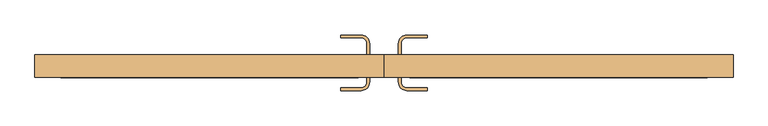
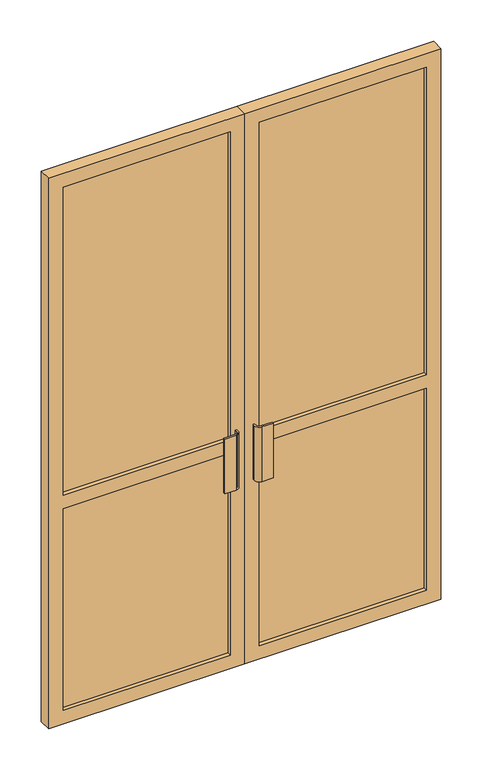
"""IFC4 building model written with IfcOpenShell, lengths in millimetres: door geometry, Дверь-Витраж-Двойная-Витрина : Дверь-Витраж-Двойная-Витрина."""

from ifc_helpers import new_model, si_unit, point, frame, frame_2d, origin, place, context, project, spatial, polyline, circle_curve, trimmed, segment, composite_curve, outline, extrude, source, transform, mapped, element, save


def door_6d2ea87a(model_context):
    return source(origin(), model_context, "Body", "SweptSolid", [
        extrude(outline(polyline([(2300.0, 775.0231001), (2300.0, 0.0231001), (0.0, 0.0231001), (0.0, 775.0231001), (2300.0, 775.0231001)]), holes=[polyline([(2243.0, 718.0231001), (957.0, 718.0231001), (957.0, 57.0231001), (2243.0, 57.0231001), (2243.0, 718.0231001)]), polyline([(57.0, 57.0231001), (900.0, 57.0231001), (900.0, 718.0231001), (57.0, 718.0231001), (57.0, 57.0231001)])]), frame((0.0, 0.0, 0.0), z_axis=(0.0, 1.0, 0.0), x_axis=(0.0, 0.0, 1.0)), (0.0, 0.0, 1.0), 50.0),
        extrude(outline(polyline([(2300.0, 0.0231001), (2300.0, -774.9768999), (0.0, -774.9768999), (0.0, 0.0231001), (2300.0, 0.0231001)]), holes=[polyline([(2243.0, -56.9768999), (957.0, -56.9768999), (957.0, -717.9768999), (2243.0, -717.9768999), (2243.0, -56.9768999)]), polyline([(57.0, -717.9768999), (900.0, -717.9768999), (900.0, -56.9768999), (57.0, -56.9768999), (57.0, -717.9768999)])]), frame((0.0, 0.0, 0.0), z_axis=(0.0, 1.0, 0.0), x_axis=(0.0, 0.0, 1.0)), (0.0, 0.0, 1.0), 50.0),
        extrude(outline(polyline([(718.0231001, 15.5), (57.0231001, 15.5), (57.0231001, 34.5), (718.0231001, 34.5), (718.0231001, 15.5)])), frame((0.0, 0.0, 57.0), z_axis=(0.0, 0.0, 1.0), x_axis=(1.0, 0.0, 0.0)), (0.0, 0.0, 1.0), 2186.0),
        extrude(outline(polyline([(-56.9768999, 15.5), (-717.9768999, 15.5), (-717.9768999, 34.5), (-56.9768999, 34.5), (-56.9768999, 15.5)])), frame((0.0, 0.0, 57.0), z_axis=(0.0, 0.0, 1.0), x_axis=(1.0, 0.0, 0.0)), (0.0, 0.0, 1.0), 2186.0),
        extrude(outline(composite_curve([segment(trimmed(circle_curve(frame_2d((-51.0268999, -9.85)), 19.05), [point((-31.9768999, -9.85))], [point((-51.0268999, -28.9))], False, "CARTESIAN"), True, "CONTINUOUS"), segment(polyline([(-51.0268999, -28.9), (-95.4768999, -28.9), (-95.4768999, -22.55), (-51.0268999, -22.55)]), True, "CONTINUOUS"), segment(trimmed(circle_curve(frame_2d((-51.0268999, -9.85)), 12.7), [point((-51.0268999, -22.55))], [point((-38.3268999, -9.85))], True, "CARTESIAN"), True, "CONTINUOUS"), segment(polyline([(-38.3268999, -9.85), (-38.3268999, 0.0), (-31.9768999, 0.0), (-31.9768999, -9.85)]), True, "CONTINUOUS")], self_intersect=False)), frame((0.0, 0.0, 762.0), z_axis=(0.0, 0.0, 1.0), x_axis=(1.0, 0.0, 0.0)), (0.0, 0.0, 1.0), 228.6),
        extrude(outline(composite_curve([segment(polyline([(32.0231001, -9.85), (32.0231001, 0.0), (38.3731001, 0.0), (38.3731001, -9.85)]), True, "CONTINUOUS"), segment(trimmed(circle_curve(frame_2d((51.0731001, -9.85)), 12.7), [point((38.3731001, -9.85))], [point((51.0731001, -22.55))], True, "CARTESIAN"), True, "CONTINUOUS"), segment(polyline([(51.0731001, -22.55), (95.5231001, -22.55), (95.5231001, -28.9), (51.0731001, -28.9)]), True, "CONTINUOUS"), segment(trimmed(circle_curve(frame_2d((51.0731001, -9.85)), 19.05), [point((51.0731001, -28.9))], [point((32.0231001, -9.85))], False, "CARTESIAN"), True, "CONTINUOUS")], self_intersect=False)), frame((0.0, 0.0, 762.0), z_axis=(0.0, 0.0, 1.0), x_axis=(1.0, 0.0, 0.0)), (0.0, 0.0, 1.0), 228.6),
        extrude(outline(composite_curve([segment(polyline([(-31.9768999, 75.4), (-31.9768999, 50.0), (-38.3268999, 50.0), (-38.3268999, 75.4)]), True, "CONTINUOUS"), segment(trimmed(circle_curve(frame_2d((-51.0268999, 75.4)), 12.7), [point((-38.3268999, 75.4))], [point((-51.0268999, 88.1))], True, "CARTESIAN"), True, "CONTINUOUS"), segment(polyline([(-51.0268999, 88.1), (-95.4768999, 88.1), (-95.4768999, 94.45), (-51.0268999, 94.45)]), True, "CONTINUOUS"), segment(trimmed(circle_curve(frame_2d((-51.0268999, 75.4)), 19.05), [point((-51.0268999, 94.45))], [point((-31.9768999, 75.4))], False, "CARTESIAN"), True, "CONTINUOUS")], self_intersect=False)), frame((0.0, 0.0, 762.0), z_axis=(0.0, 0.0, 1.0), x_axis=(1.0, 0.0, 0.0)), (0.0, 0.0, 1.0), 228.6),
        extrude(outline(composite_curve([segment(trimmed(circle_curve(frame_2d((51.0731001, 75.4)), 19.05), [point((32.0231001, 75.4))], [point((51.0731001, 94.45))], False, "CARTESIAN"), True, "CONTINUOUS"), segment(polyline([(51.0731001, 94.45), (95.5231001, 94.45), (95.5231001, 88.1), (51.0731001, 88.1)]), True, "CONTINUOUS"), segment(trimmed(circle_curve(frame_2d((51.0731001, 75.4)), 12.7), [point((51.0731001, 88.1))], [point((38.3731001, 75.4))], True, "CARTESIAN"), True, "CONTINUOUS"), segment(polyline([(38.3731001, 75.4), (38.3731001, 50.0), (32.0231001, 50.0), (32.0231001, 75.4)]), True, "CONTINUOUS")], self_intersect=False)), frame((0.0, 0.0, 762.0), z_axis=(0.0, 0.0, 1.0), x_axis=(1.0, 0.0, 0.0)), (0.0, 0.0, 1.0), 228.6),
    ])


if __name__ == "__main__":
    model = new_model("IFC4")
    model_context = context("Model", 3, world=origin())
    ifc_project = project(units=[si_unit("LENGTHUNIT", "METRE", prefix="MILLI")], contexts=[model_context])
    site = spatial("IfcSite", under=ifc_project)
    building = spatial("IfcBuilding", under=site)
    placement = place(None, origin())
    door_shape = door_6d2ea87a(model_context)
    element("IfcDoor", 1, ObjectType="Дверь-Витраж-Двойная-Витрина : Дверь-Витраж-Двойная-Витрина", at=placement, inside=building, context=model_context, shape_type="MappedRepresentation", body=[
        mapped(door_shape, transform((0.0, 0.0, 0.0), x_axis=(1.0, 0.0, 0.0), y_axis=(0.0, 1.0, 0.0), z_axis=(0.0, 0.0, 1.0))),
    ])
    save(model, "model.ifc")
